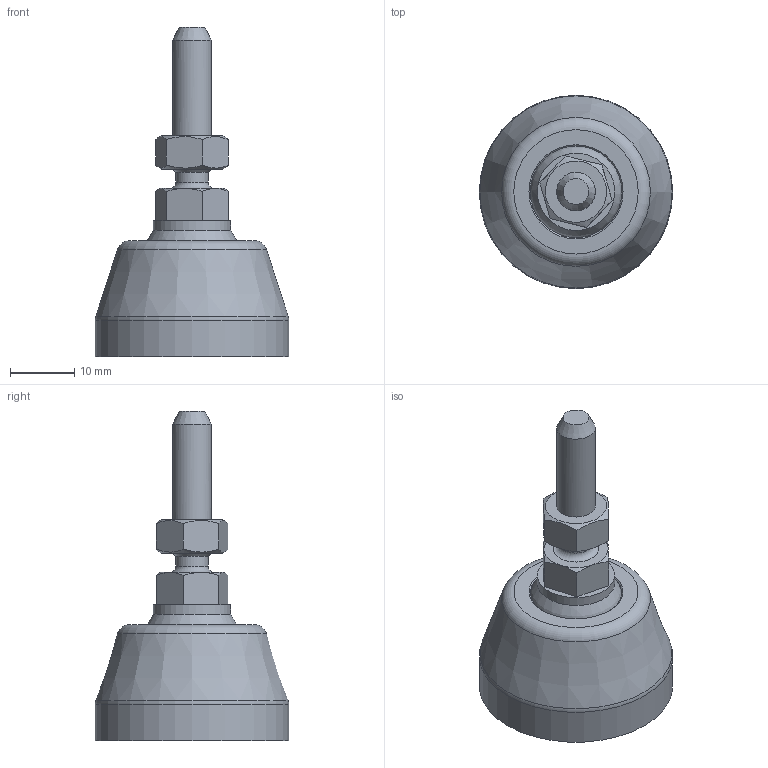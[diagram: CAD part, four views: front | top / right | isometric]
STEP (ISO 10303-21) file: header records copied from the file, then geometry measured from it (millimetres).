
FILE_DESCRIPTION(('STEP AP203'), '1');
FILE_NAME('栖闉罻', '', ('UNSPECIFIED'), ('UNSPECIFIED'), 'C3D Converter', 'C3D Toolkit', '');
FILE_SCHEMA(('CONFIG_CONTROL_DESIGN'));
Length unit declared in the file: millimetre
Products named in the file (4): A00015.1030; A00020.106030
Assembly tree (3 placements, depth 3):
  (unnamed)
    A00015.1030
    A00020.106030
      (unnamed)
Bounding box: 30 x 30 x 51.1 mm (x, y, z)
Volume: 3184.8 mm3; surface area: 9945.1 mm2
Topology: 2 solids, 3 shells, 214 faces, 579 edges, 335 vertices
Faces by surface type: plane 142, cylinder 34, torus 21, cone 15, sphere 2
Full cylindrical faces by diameter (mm): 4.917 x1, 5 x1, 6 x1, 8 x1, 8.3 x1, 12 x1, 14.2 x1, 15 x1, 20.6 x1, 30 x1
Entity records: 12205 total; most frequent: CARTESIAN_POINT 5371, ORIENTED_EDGE 1024, DIRECTION 990, EDGE_CURVE 528, AXIS2_PLACEMENT_3D 390, VERTEX_POINT 334, EDGE_LOOP 246, FACE_BOUND 226
